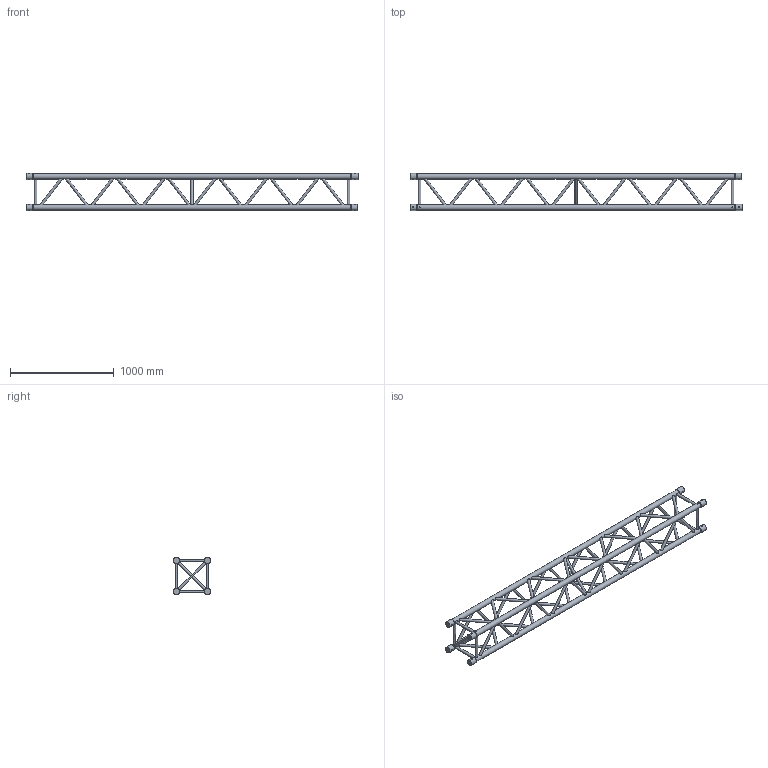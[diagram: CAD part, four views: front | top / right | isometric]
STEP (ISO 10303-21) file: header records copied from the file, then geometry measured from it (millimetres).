
FILE_DESCRIPTION(/* description */ (''),/* implementation_level */ '2;1');
FILE_NAME(/* name */ 'C:\Users\corina\Desktop\111110071.stp',/* time_stamp */ '2016-09-09T13:43:19+03:00',/* author */ ('corina.carstoveanu'),/* organization */ (''),/* preprocessor_version */ 'ST-DEVELOPER v15.6',/* originating_system */ 'Autodesk Inventor 2015',/* authorisation */ '');
FILE_SCHEMA (('AUTOMOTIVE_DESIGN { 1 0 10303 214 3 1 1 }'));
Length unit declared in the file: millimetre
Products named in the file (1): 260030884
Bounding box: 3200 x 357.8 x 357.8 mm (x, y, z)
Volume: 34040566.5 mm3; surface area: 3485677.4 mm2
Topology: 2 solids, 7 shells, 228 faces, 647 edges, 423 vertices
Faces by surface type: cylinder 144, plane 76, cone 8
Full cylindrical faces by diameter (mm): 10 x8, 25 x59, 50 x4, 58.8 x8
Entity records: 10720 total; most frequent: CARTESIAN_POINT 6295, ORIENTED_EDGE 764, DIRECTION 729, EDGE_LOOP 440, EDGE_CURVE 355, AXIS2_PLACEMENT_3D 344, VERTEX_POINT 274, FACE_BOUND 245
